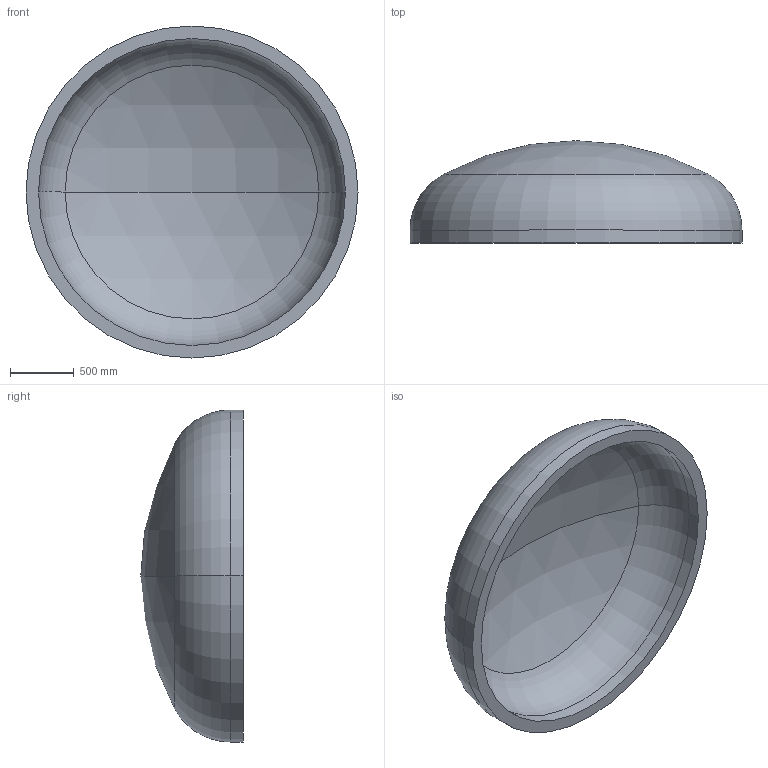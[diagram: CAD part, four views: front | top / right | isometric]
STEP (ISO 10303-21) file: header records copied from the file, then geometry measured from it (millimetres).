
FILE_DESCRIPTION (( 'STEP AP203' ), '1' );
FILE_NAME ('DIN 28013 Korbbogenform_-_Boden DIN 28013 - 2600 x 100 - I - s=98.step', '2016-07-01T16:30:43', ( '' ), ( '' ), 'SwSTEP 2.0', 'SolidWorks 2013', '' );
FILE_SCHEMA (( 'CONFIG_CONTROL_DESIGN' ));
Length unit declared in the file: millimetre
Products named in the file (1): DIN 28013 Korbbogenform_-_Boden DIN 28013 - 2600 x 100 - I - s=98
Bounding box: 2600 x 801.79 x 2600 mm (x, y, z)
Volume: 763102576.5 mm3; surface area: 16363937.7 mm2
Topology: 1 solids, 1 shells, 13 faces, 24 edges, 14 vertices
Faces by surface type: torus 4, cylinder 4, sphere 4, plane 1
Entity records: 407 total; most frequent: DIRECTION 72, CARTESIAN_POINT 52, ORIENTED_EDGE 48, AXIS2_PLACEMENT_3D 34, EDGE_CURVE 24, CIRCLE 20, VERTEX_POINT 14, EDGE_LOOP 14
